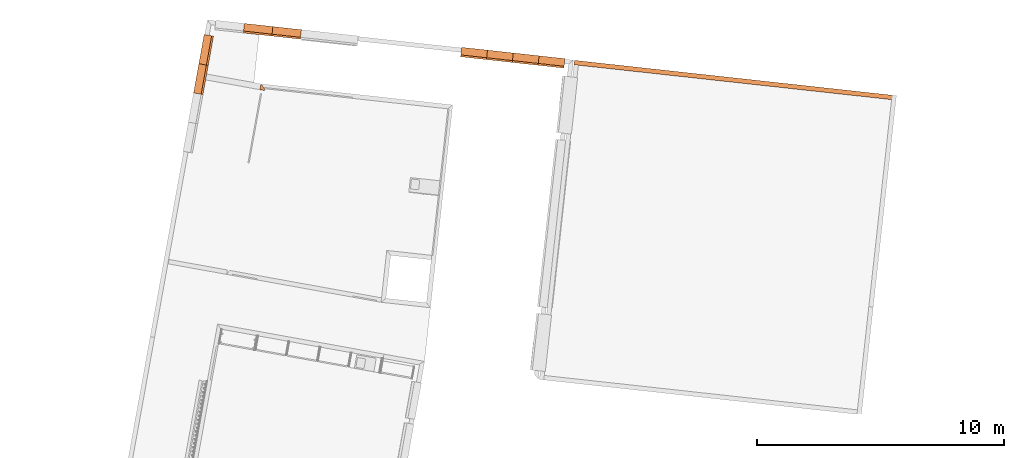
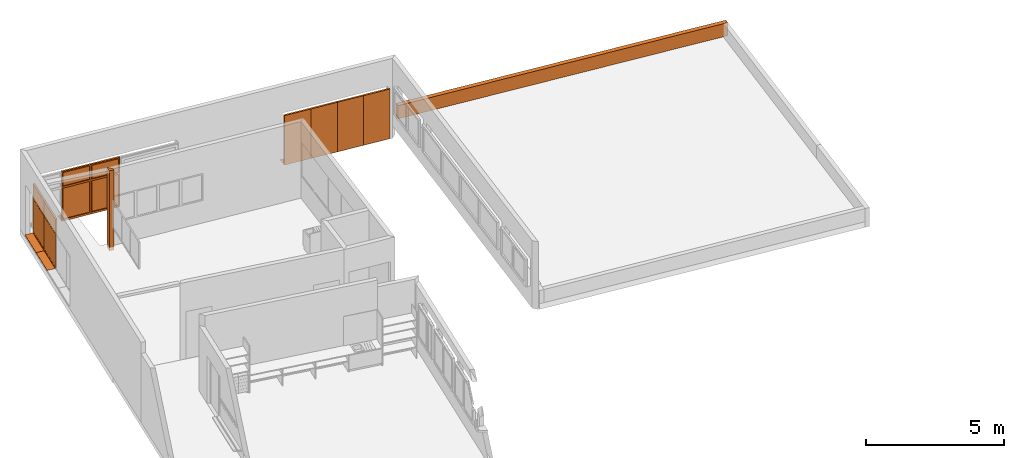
# One storey, part 26 of 52: 10 proxies.
"""IFC2X3 building model written with IfcOpenShell, lengths in metres."""

from ifc_helpers import new_model, entity, si_unit, converted_unit, derived_unit, money_unit, direction, frame, origin_with_axes, place, context, subcontext, project, spatial, polyline, outline, extrude, open_shell, faceted_brep, surface_model, source, transform, mapped, material, type_object, element, save


model = new_model("IFC2X3")

# Units and contexts
model_context = context("Model", 3, precision=1e-05, world=origin_with_axes(), true_north=direction((0.0, 1.0)))
body_context = subcontext(model_context, "Body", "Model", "MODEL_VIEW")
ifc_project = project(units=[si_unit("LENGTHUNIT", "METRE"), si_unit("AREAUNIT", "SQUARE_METRE"), si_unit("VOLUMEUNIT", "CUBIC_METRE"), converted_unit("PLANEANGLEUNIT", "DEGREE", entity("IfcPlaneAngleMeasure", 0.0174532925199), si_unit("PLANEANGLEUNIT", "RADIAN"), dimensions=[0, 0, 0, 0, 0, 0, 0]), money_unit("CHF"), converted_unit("TIMEUNIT", "Year", entity("IfcTimeMeasure", 31556926.0), si_unit("TIMEUNIT", "SECOND"), dimensions=[0, 0, 1, 0, 0, 0, 0]), si_unit("MASSUNIT", "GRAM", prefix="KILO"), si_unit("THERMODYNAMICTEMPERATUREUNIT", "DEGREE_CELSIUS"), si_unit("LUMINOUSINTENSITYUNIT", "LUMEN"), si_unit("ENERGYUNIT", "JOULE", prefix="MEGA"), derived_unit("THERMALCONDUCTANCEUNIT", [(si_unit("POWERUNIT", "WATT"), 1), (si_unit("LENGTHUNIT", "METRE"), -1), (si_unit("THERMODYNAMICTEMPERATUREUNIT", "KELVIN"), -1)]), derived_unit("SPECIFICHEATCAPACITYUNIT", [(si_unit("ENERGYUNIT", "JOULE"), 1), (si_unit("MASSUNIT", "GRAM", prefix="KILO"), -1), (si_unit("THERMODYNAMICTEMPERATUREUNIT", "KELVIN"), -1)]), derived_unit("MASSDENSITYUNIT", [(si_unit("MASSUNIT", "GRAM", prefix="KILO"), 1), (si_unit("VOLUMEUNIT", "CUBIC_METRE"), -1)])], contexts=[model_context])

# Site, building, storey
site_placement = place(None, frame((0.0, 0.0, 0.0), z_axis=(0.0, 0.0, 1.0), x_axis=(-0.177771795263, -0.984071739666, 0.0)))
site = spatial("IfcSite", under=ifc_project, at=site_placement, Name="Site", CompositionType="ELEMENT")
building_placement = place(site_placement, origin_with_axes())
building = spatial("IfcBuilding", under=site, at=building_placement, Name="Bâtiment", CompositionType="ELEMENT")
storey_placement = place(building_placement, frame((0.0, 0.0, 3.2), z_axis=(0.0, 0.0, 1.0), x_axis=(1.0, 0.0, 0.0)))
storey = spatial("IfcBuildingStorey", under=building, at=storey_placement, Name="R+1", CompositionType="ELEMENT", Elevation=3.2)

# Proxies
ifc_material_1 = material(Name="_BA banché RAL9007")
building_element_proxy_type_1 = type_object("IfcBuildingElementProxyType", Name="_BA banché RAL9007 180", PredefinedType="NOTDEFINED")
proxy_1_placement = place(storey_placement, frame((100.296126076, -156.627050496, -0.15), z_axis=(0.0, 0.0, 1.0), x_axis=(-1.0, 0.0, 0.0)))
element("IfcBuildingElementProxy", 1, at=proxy_1_placement, inside=storey, type_object=building_element_proxy_type_1, material=ifc_material_1, Name="M refend", context=body_context, shape_type="SweptSolid", body=[
    extrude(outline(polyline([(0.0, -0.18), (0.0720639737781, -0.18), (0.24, 0.0), (0.0, 0.0), (0.0, -0.18)])), origin_with_axes(), (0.0, 0.0, 1.0), 3.55),
])
ifc_material_2 = material(Name="Matériau de construction IFC")
building_element_proxy_type_2 = type_object("IfcBuildingElementProxyType", Name="Fenêtre variable 21", PredefinedType="NOTDEFINED")
shared_shape_1 = source(origin_with_axes(), body_context, "Body", "SurfaceModel", [
    surface_model("IfcShellBasedSurfaceModel", [(1.05, -0.284, 0.02), (1.05, -0.284, 0.01), (0.0, -0.284, 0.01), (0.0, -0.284, 0.02), (1.05, 0.025, -0.00087719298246), (0.0, 0.025, -0.00087719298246), (1.05, 0.025, -0.0308771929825), (0.0, 0.025, -0.0308771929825), (1.05, 0.0125, -0.0183771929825), (0.0, 0.0125, -0.0183771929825)], [open_shell([[[0, 1, 2, 3]], [[1, 4, 5, 2]], [[4, 6, 7, 5]], [[6, 8, 9, 7]]])]),
    faceted_brep([(1.0, -0.36, 1.46), (1.0, -0.36, 1.54), (1.0, -0.285, 1.54), (1.0, -0.285, 1.46), (1.0, -0.36, 0.08), (1.05, -0.36, 0.08), (1.05, -0.36, 2.149), (1.0, -0.36, 2.149), (1.0, -0.285, 2.149), (1.05, -0.285, 2.149), (1.05, -0.285, 0.08), (1.0, -0.285, 0.08)], [[[0, 1, 2, 3]], [[0, 4, 5, 6, 7, 1]], [[1, 7, 8, 2]], [[3, 2, 8, 9, 10, 11]], [[4, 0, 3, 11]], [[5, 4, 11, 10]], [[6, 5, 10, 9]], [[7, 6, 9, 8]]]),
    faceted_brep([(0.05, -0.36, 0.08), (0.0, -0.36, 0.08), (0.0, -0.285, 0.08), (0.05, -0.285, 0.08), (0.05, -0.36, 1.46), (0.05, -0.36, 1.54), (0.05, -0.36, 2.149), (0.0, -0.36, 2.149), (0.0, -0.285, 2.149), (0.05, -0.285, 2.149), (0.05, -0.285, 1.54), (0.05, -0.285, 1.46)], [[[0, 1, 2, 3]], [[0, 4, 5, 6, 7, 1]], [[1, 7, 8, 2]], [[3, 2, 8, 9, 10, 11]], [[4, 0, 3, 11]], [[5, 4, 11, 10]], [[6, 5, 10, 9]], [[7, 6, 9, 8]]]),
    faceted_brep([(1.0, -0.36, 1.46), (0.05, -0.36, 1.46), (0.05, -0.285, 1.46), (1.0, -0.285, 1.46), (1.0, -0.36, 1.54), (0.05, -0.36, 1.54), (0.05, -0.285, 1.54), (1.0, -0.285, 1.54)], [[[0, 1, 2, 3]], [[0, 4, 5, 1]], [[1, 5, 6, 2]], [[3, 2, 6, 7]], [[4, 0, 3, 7]], [[5, 4, 7, 6]]]),
    faceted_brep([(1.0, -0.36, 0.08), (1.05, -0.36, 0.08), (1.05, -0.285, 0.08), (1.0, -0.285, 0.08), (0.05, -0.36, 0.08), (0.0, -0.36, 0.08), (0.0, -0.36, 0.0), (1.05, -0.36, 0.0), (1.05, -0.285, 0.0), (0.0, -0.285, 0.0), (0.0, -0.285, 0.08), (0.05, -0.285, 0.08)], [[[0, 1, 2, 3]], [[0, 4, 5, 6, 7, 1]], [[1, 7, 8, 2]], [[3, 2, 8, 9, 10, 11]], [[4, 0, 3, 11]], [[5, 4, 11, 10]], [[6, 5, 10, 9]], [[7, 6, 9, 8]]]),
    faceted_brep([(0.05, -0.36, 2.149), (0.0, -0.36, 2.149), (0.0, -0.285, 2.149), (0.05, -0.285, 2.149), (1.0, -0.36, 2.149), (1.05, -0.36, 2.149), (1.05, -0.36, 2.199), (0.0, -0.36, 2.199), (0.0, -0.285, 2.199), (1.05, -0.285, 2.199), (1.05, -0.285, 2.149), (1.0, -0.285, 2.149)], [[[0, 1, 2, 3]], [[0, 4, 5, 6, 7, 1]], [[1, 7, 8, 2]], [[3, 2, 8, 9, 10, 11]], [[4, 0, 3, 11]], [[5, 4, 11, 10]], [[6, 5, 10, 9]], [[7, 6, 9, 8]]]),
    surface_model("IfcShellBasedSurfaceModel", [(1.0, -0.36, 1.54), (1.0, -0.36, 2.149), (0.05, -0.36, 2.149), (0.05, -0.36, 1.54)], [open_shell([[[0, 1, 2, 3]]])]),
    surface_model("IfcShellBasedSurfaceModel", [(1.0, -0.34, 1.54), (0.05, -0.34, 1.54), (0.05, -0.34, 2.149), (1.0, -0.34, 2.149)], [open_shell([[[0, 1, 2, 3]]])]),
    surface_model("IfcShellBasedSurfaceModel", [(1.0, -0.36, 0.08), (1.0, -0.36, 1.46), (0.05, -0.36, 1.46), (0.05, -0.36, 0.08)], [open_shell([[[0, 1, 2, 3]]])]),
    surface_model("IfcShellBasedSurfaceModel", [(1.0, -0.34, 0.08), (0.05, -0.34, 0.08), (0.05, -0.34, 1.46), (1.0, -0.34, 1.46)], [open_shell([[[0, 1, 2, 3]]])]),
])
for number, where, z_axis, x_axis, name in (
    (2, (97.1840929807, -148.900889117, 0.0025), (0.0, 0.0, 1.0), (-0.0692640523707, 0.997598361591, 0.0), "Baie vide-sur-hall-Nord"),
    (3, (96.9659112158, -145.758454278, 0.0025), (0.0, 0.0, 1.0), (-0.0692640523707, 0.997598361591, 0.0), "Baie vide-sur-hall-Nord"),
):
    element("IfcBuildingElementProxy", number, at=place(storey_placement, frame(where, z_axis=z_axis, x_axis=x_axis)), inside=storey, type_object=building_element_proxy_type_2, material=ifc_material_2, Name=name, context=body_context, shape_type="MappedRepresentation", body=[
        mapped(shared_shape_1, transform((0.0, 0.0, 0.0))),
    ])
shared_shape_2 = source(origin_with_axes(), body_context, "Body", "SurfaceModel", [
    surface_model("IfcShellBasedSurfaceModel", [(0.0, 0.284, 0.02), (0.0, 0.284, 0.01), (1.16, 0.284, 0.01), (1.16, 0.284, 0.02), (0.0, -0.025, -0.00087719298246), (1.16, -0.025, -0.00087719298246), (0.0, -0.025, -0.0308771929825), (1.16, -0.025, -0.0308771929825), (0.0, -0.0125, -0.0183771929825), (1.16, -0.0125, -0.0183771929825)], [open_shell([[[0, 1, 2, 3]], [[1, 4, 5, 2]], [[4, 6, 7, 5]], [[6, 8, 9, 7]]])]),
    faceted_brep([(0.05, 0.285, 1.46), (0.05, 0.36, 1.46), (0.05, 0.36, 1.54), (0.05, 0.285, 1.54), (0.05, 0.285, 0.08), (0.05, 0.36, 0.08), (0.0, 0.36, 0.08), (0.0, 0.36, 2.149), (0.05, 0.36, 2.149), (0.05, 0.285, 2.149), (0.0, 0.285, 2.149), (0.0, 0.285, 0.08)], [[[0, 1, 2, 3]], [[4, 5, 1, 0]], [[1, 5, 6, 7, 8, 2]], [[3, 2, 8, 9]], [[0, 3, 9, 10, 11, 4]], [[11, 6, 5, 4]], [[10, 7, 6, 11]], [[9, 8, 7, 10]]]),
    faceted_brep([(1.11, 0.285, 0.08), (1.11, 0.36, 0.08), (1.16, 0.36, 0.08), (1.16, 0.285, 0.08), (1.11, 0.285, 1.46), (1.11, 0.36, 1.46), (1.11, 0.36, 1.54), (1.11, 0.36, 2.149), (1.16, 0.36, 2.149), (1.16, 0.285, 2.149), (1.11, 0.285, 2.149), (1.11, 0.285, 1.54)], [[[0, 1, 2, 3]], [[4, 5, 1, 0]], [[1, 5, 6, 7, 8, 2]], [[3, 2, 8, 9]], [[0, 3, 9, 10, 11, 4]], [[11, 6, 5, 4]], [[10, 7, 6, 11]], [[9, 8, 7, 10]]]),
    faceted_brep([(0.05, 0.285, 1.46), (0.05, 0.36, 1.46), (1.11, 0.36, 1.46), (1.11, 0.285, 1.46), (0.05, 0.285, 1.54), (0.05, 0.36, 1.54), (1.11, 0.36, 1.54), (1.11, 0.285, 1.54)], [[[0, 1, 2, 3]], [[4, 5, 1, 0]], [[1, 5, 6, 2]], [[3, 2, 6, 7]], [[0, 3, 7, 4]], [[7, 6, 5, 4]]]),
    faceted_brep([(0.05, 0.285, 0.08), (0.05, 0.36, 0.08), (0.0, 0.36, 0.08), (0.0, 0.285, 0.08), (1.11, 0.285, 0.08), (1.11, 0.36, 0.08), (1.16, 0.36, 0.08), (1.16, 0.36, 0.0), (0.0, 0.36, 0.0), (0.0, 0.285, 0.0), (1.16, 0.285, 0.0), (1.16, 0.285, 0.08)], [[[0, 1, 2, 3]], [[4, 5, 1, 0]], [[1, 5, 6, 7, 8, 2]], [[3, 2, 8, 9]], [[0, 3, 9, 10, 11, 4]], [[11, 6, 5, 4]], [[10, 7, 6, 11]], [[9, 8, 7, 10]]]),
    faceted_brep([(1.11, 0.285, 2.149), (1.11, 0.36, 2.149), (1.16, 0.36, 2.149), (1.16, 0.285, 2.149), (0.05, 0.285, 2.149), (0.05, 0.36, 2.149), (0.0, 0.36, 2.149), (0.0, 0.36, 2.199), (1.16, 0.36, 2.199), (1.16, 0.285, 2.199), (0.0, 0.285, 2.199), (0.0, 0.285, 2.149)], [[[0, 1, 2, 3]], [[4, 5, 1, 0]], [[1, 5, 6, 7, 8, 2]], [[3, 2, 8, 9]], [[0, 3, 9, 10, 11, 4]], [[11, 6, 5, 4]], [[10, 7, 6, 11]], [[9, 8, 7, 10]]]),
    surface_model("IfcShellBasedSurfaceModel", [(0.05, 0.3175, 1.54), (1.11, 0.3175, 1.54), (1.11, 0.3175, 2.149), (0.05, 0.3175, 2.149)], [open_shell([[[0, 1, 2, 3]]])]),
    surface_model("IfcShellBasedSurfaceModel", [(0.05, 0.3275, 1.54), (0.05, 0.3275, 2.149), (1.11, 0.3275, 2.149), (1.11, 0.3275, 1.54)], [open_shell([[[0, 1, 2, 3]]])]),
    surface_model("IfcShellBasedSurfaceModel", [(0.05, 0.3175, 0.08), (1.11, 0.3175, 0.08), (1.11, 0.3175, 1.46), (0.05, 0.3175, 1.46)], [open_shell([[[0, 1, 2, 3]]])]),
    surface_model("IfcShellBasedSurfaceModel", [(0.05, 0.3275, 0.08), (0.05, 0.3275, 1.46), (1.11, 0.3275, 1.46), (1.11, 0.3275, 0.08)], [open_shell([[[0, 1, 2, 3]]])]),
])
for number, where, z_axis, x_axis, name in (
    (4, (97.6356944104, -155.405227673, 0.0), (0.0, 0.0, 1.0), (0.0692640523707, -0.997598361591, 0.0), "Baie angle-Nord"),
    (5, (97.7160407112, -156.562441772, 0.0), (0.0, 0.0, 1.0), (0.0692640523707, -0.997598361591, 0.0), "Baie angle-Nord"),
):
    element("IfcBuildingElementProxy", number, at=place(storey_placement, frame(where, z_axis=z_axis, x_axis=x_axis)), inside=storey, type_object=building_element_proxy_type_2, material=ifc_material_2, Name=name, context=body_context, shape_type="MappedRepresentation", body=[
        mapped(shared_shape_2, transform((0.0, 0.0, 0.0))),
    ])
shared_shape_3 = source(origin_with_axes(), body_context, "Body", "SurfaceModel", [
    surface_model("IfcShellBasedSurfaceModel", [(0.0, -0.284, 0.02), (1.05, -0.284, 0.02), (1.05, -0.284, 0.01), (0.0, -0.284, 0.01), (1.05, 0.025, -0.00087719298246), (0.0, 0.025, -0.00087719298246), (1.05, 0.025, -0.0308771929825), (0.0, 0.025, -0.0308771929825), (1.05, 0.0125, -0.0183771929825), (0.0, 0.0125, -0.0183771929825)], [open_shell([[[0, 1, 2, 3]], [[3, 2, 4, 5]], [[5, 4, 6, 7]], [[7, 6, 8, 9]]])]),
    faceted_brep([(0.05, -0.36, 1.46), (0.05, -0.285, 1.46), (0.05, -0.285, 1.54), (0.05, -0.36, 1.54), (0.05, -0.36, 0.08), (0.05, -0.285, 0.08), (0.0, -0.285, 0.08), (0.0, -0.285, 2.149), (0.05, -0.285, 2.149), (0.05, -0.36, 2.149), (0.0, -0.36, 2.149), (0.0, -0.36, 0.08)], [[[0, 1, 2, 3]], [[4, 5, 1, 0]], [[1, 5, 6, 7, 8, 2]], [[3, 2, 8, 9]], [[0, 3, 9, 10, 11, 4]], [[11, 6, 5, 4]], [[10, 7, 6, 11]], [[9, 8, 7, 10]]]),
    faceted_brep([(1.0, -0.36, 0.08), (1.0, -0.285, 0.08), (1.05, -0.285, 0.08), (1.05, -0.36, 0.08), (1.0, -0.36, 1.46), (1.0, -0.285, 1.46), (1.0, -0.285, 1.54), (1.0, -0.285, 2.149), (1.05, -0.285, 2.149), (1.05, -0.36, 2.149), (1.0, -0.36, 2.149), (1.0, -0.36, 1.54)], [[[0, 1, 2, 3]], [[4, 5, 1, 0]], [[1, 5, 6, 7, 8, 2]], [[3, 2, 8, 9]], [[0, 3, 9, 10, 11, 4]], [[11, 6, 5, 4]], [[10, 7, 6, 11]], [[9, 8, 7, 10]]]),
    faceted_brep([(0.05, -0.36, 1.46), (0.05, -0.285, 1.46), (1.0, -0.285, 1.46), (1.0, -0.36, 1.46), (0.05, -0.36, 1.54), (0.05, -0.285, 1.54), (1.0, -0.285, 1.54), (1.0, -0.36, 1.54)], [[[0, 1, 2, 3]], [[4, 5, 1, 0]], [[1, 5, 6, 2]], [[3, 2, 6, 7]], [[0, 3, 7, 4]], [[7, 6, 5, 4]]]),
    faceted_brep([(0.05, -0.36, 0.08), (0.05, -0.285, 0.08), (0.0, -0.285, 0.08), (0.0, -0.36, 0.08), (1.0, -0.36, 0.08), (1.0, -0.285, 0.08), (1.05, -0.285, 0.08), (1.05, -0.285, 0.0), (0.0, -0.285, 0.0), (0.0, -0.36, 0.0), (1.05, -0.36, 0.0), (1.05, -0.36, 0.08)], [[[0, 1, 2, 3]], [[4, 5, 1, 0]], [[1, 5, 6, 7, 8, 2]], [[3, 2, 8, 9]], [[0, 3, 9, 10, 11, 4]], [[11, 6, 5, 4]], [[10, 7, 6, 11]], [[9, 8, 7, 10]]]),
    faceted_brep([(1.0, -0.36, 2.149), (1.0, -0.285, 2.149), (1.05, -0.285, 2.149), (1.05, -0.36, 2.149), (0.05, -0.36, 2.149), (0.05, -0.285, 2.149), (0.0, -0.285, 2.149), (0.0, -0.285, 2.199), (1.05, -0.285, 2.199), (1.05, -0.36, 2.199), (0.0, -0.36, 2.199), (0.0, -0.36, 2.149)], [[[0, 1, 2, 3]], [[4, 5, 1, 0]], [[1, 5, 6, 7, 8, 2]], [[3, 2, 8, 9]], [[0, 3, 9, 10, 11, 4]], [[11, 6, 5, 4]], [[10, 7, 6, 11]], [[9, 8, 7, 10]]]),
    surface_model("IfcShellBasedSurfaceModel", [(0.05, -0.36, 1.54), (1.0, -0.36, 1.54), (1.0, -0.36, 2.149), (0.05, -0.36, 2.149)], [open_shell([[[0, 1, 2, 3]]])]),
    surface_model("IfcShellBasedSurfaceModel", [(0.05, -0.34, 1.54), (0.05, -0.34, 2.149), (1.0, -0.34, 2.149), (1.0, -0.34, 1.54)], [open_shell([[[0, 1, 2, 3]]])]),
    surface_model("IfcShellBasedSurfaceModel", [(0.05, -0.36, 0.08), (1.0, -0.36, 0.08), (1.0, -0.36, 1.46), (0.05, -0.36, 1.46)], [open_shell([[[0, 1, 2, 3]]])]),
    surface_model("IfcShellBasedSurfaceModel", [(0.05, -0.34, 0.08), (0.05, -0.34, 1.46), (1.0, -0.34, 1.46), (1.0, -0.34, 0.08)], [open_shell([[[0, 1, 2, 3]]])]),
])
for number, where, z_axis, x_axis, name in (
    (6, (97.1113657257, -147.853410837, 0.0025), (0.0, 0.0, 1.0), (-0.0692640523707, 0.997598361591, 0.0), "Baie vide-sur-hall-Nord"),
    (7, (97.0386384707, -146.805932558, 0.0025), (0.0, 0.0, 1.0), (-0.0692640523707, 0.997598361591, 0.0), "Baie vide-sur-hall-Nord"),
):
    element("IfcBuildingElementProxy", number, at=place(storey_placement, frame(where, z_axis=z_axis, x_axis=x_axis)), inside=storey, type_object=building_element_proxy_type_2, material=ifc_material_2, Name=name, context=body_context, shape_type="MappedRepresentation", body=[
        mapped(shared_shape_3, transform((0.0, 0.0, 0.0))),
    ])
building_element_proxy_type_3 = type_object("IfcBuildingElementProxyType", Name="_acrotere 230 x 600", PredefinedType="NOTDEFINED")
proxy_2_placement = place(storey_placement, frame((95.9588817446, -131.254380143, 0.65), z_axis=(0.0, 0.0, 1.0), x_axis=(0.0692640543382, -0.997598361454, 0.0)))
element("IfcBuildingElementProxy", 8, at=proxy_2_placement, inside=storey, type_object=building_element_proxy_type_3, material=ifc_material_1, Name="M acrot-pluri", context=body_context, shape_type="SweptSolid", body=[
    extrude(outline(polyline([(-0.180114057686, 0.542613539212), (-0.180114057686, 0.0), (0.0, 0.0), (0.0, 0.542613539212), (0.0, 0.562613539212), (0.0, 0.582613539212), (-0.180114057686, 0.582613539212), (-0.180114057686, 0.562613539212), (-0.180114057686, 0.542613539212)])), frame((0.0, 0.0, 0.0), z_axis=(-1.0, 0.0, 0.0), x_axis=(0.0, -1.0, 0.0)), (0.0, 0.0, -1.0), 13.099515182),
])
shared_shape_4 = source(origin_with_axes(), body_context, "Body", "SurfaceModel", [
    surface_model("IfcShellBasedSurfaceModel", [(0.0, 0.284, 0.02), (0.0, 0.284, 0.01), (1.2, 0.284, 0.01), (1.2, 0.284, 0.02), (0.0, -0.025, -0.00087719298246), (1.2, -0.025, -0.00087719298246), (0.0, -0.025, -0.0308771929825), (1.2, -0.025, -0.0308771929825), (0.0, -0.0125, -0.0183771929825), (1.2, -0.0125, -0.0183771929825)], [open_shell([[[0, 1, 2, 3]], [[1, 4, 5, 2]], [[4, 6, 7, 5]], [[6, 8, 9, 7]]])]),
    faceted_brep([(0.05, 0.285, 1.46), (0.05, 0.36, 1.46), (0.05, 0.36, 1.54), (0.05, 0.285, 1.54), (0.05, 0.285, 0.08), (0.05, 0.36, 0.08), (0.0, 0.36, 0.08), (0.0, 0.36, 2.149), (0.05, 0.36, 2.149), (0.05, 0.285, 2.149), (0.0, 0.285, 2.149), (0.0, 0.285, 0.08)], [[[0, 1, 2, 3]], [[4, 5, 1, 0]], [[1, 5, 6, 7, 8, 2]], [[3, 2, 8, 9]], [[0, 3, 9, 10, 11, 4]], [[11, 6, 5, 4]], [[10, 7, 6, 11]], [[9, 8, 7, 10]]]),
    faceted_brep([(1.15, 0.285, 0.08), (1.15, 0.36, 0.08), (1.2, 0.36, 0.08), (1.2, 0.285, 0.08), (1.15, 0.285, 1.46), (1.15, 0.36, 1.46), (1.15, 0.36, 1.54), (1.15, 0.36, 2.149), (1.2, 0.36, 2.149), (1.2, 0.285, 2.149), (1.15, 0.285, 2.149), (1.15, 0.285, 1.54)], [[[0, 1, 2, 3]], [[4, 5, 1, 0]], [[1, 5, 6, 7, 8, 2]], [[3, 2, 8, 9]], [[0, 3, 9, 10, 11, 4]], [[11, 6, 5, 4]], [[10, 7, 6, 11]], [[9, 8, 7, 10]]]),
    faceted_brep([(0.05, 0.285, 1.46), (0.05, 0.36, 1.46), (1.15, 0.36, 1.46), (1.15, 0.285, 1.46), (0.05, 0.285, 1.54), (0.05, 0.36, 1.54), (1.15, 0.36, 1.54), (1.15, 0.285, 1.54)], [[[0, 1, 2, 3]], [[4, 5, 1, 0]], [[1, 5, 6, 2]], [[3, 2, 6, 7]], [[0, 3, 7, 4]], [[7, 6, 5, 4]]]),
    faceted_brep([(0.05, 0.285, 0.08), (0.05, 0.36, 0.08), (0.0, 0.36, 0.08), (0.0, 0.285, 0.08), (1.15, 0.285, 0.08), (1.15, 0.36, 0.08), (1.2, 0.36, 0.08), (1.2, 0.36, 0.0), (0.0, 0.36, 0.0), (0.0, 0.285, 0.0), (1.2, 0.285, 0.0), (1.2, 0.285, 0.08)], [[[0, 1, 2, 3]], [[4, 5, 1, 0]], [[1, 5, 6, 7, 8, 2]], [[3, 2, 8, 9]], [[0, 3, 9, 10, 11, 4]], [[11, 6, 5, 4]], [[10, 7, 6, 11]], [[9, 8, 7, 10]]]),
    faceted_brep([(1.15, 0.285, 2.149), (1.15, 0.36, 2.149), (1.2, 0.36, 2.149), (1.2, 0.285, 2.149), (0.05, 0.285, 2.149), (0.05, 0.36, 2.149), (0.0, 0.36, 2.149), (0.0, 0.36, 2.199), (1.2, 0.36, 2.199), (1.2, 0.285, 2.199), (0.0, 0.285, 2.199), (0.0, 0.285, 2.149)], [[[0, 1, 2, 3]], [[4, 5, 1, 0]], [[1, 5, 6, 7, 8, 2]], [[3, 2, 8, 9]], [[0, 3, 9, 10, 11, 4]], [[11, 6, 5, 4]], [[10, 7, 6, 11]], [[9, 8, 7, 10]]]),
    surface_model("IfcShellBasedSurfaceModel", [(0.05, 0.29, 1.54), (1.15, 0.29, 1.54), (1.15, 0.29, 2.149), (0.05, 0.29, 2.149)], [open_shell([[[0, 1, 2, 3]]])]),
    surface_model("IfcShellBasedSurfaceModel", [(0.05, 0.3, 1.54), (0.05, 0.3, 2.149), (1.15, 0.3, 2.149), (1.15, 0.3, 1.54)], [open_shell([[[0, 1, 2, 3]]])]),
    surface_model("IfcShellBasedSurfaceModel", [(0.05, 0.29, 0.08), (1.15, 0.29, 0.08), (1.15, 0.29, 1.46), (0.05, 0.29, 1.46)], [open_shell([[[0, 1, 2, 3]]])]),
    surface_model("IfcShellBasedSurfaceModel", [(0.05, 0.3, 0.08), (0.05, 0.3, 1.46), (1.15, 0.3, 1.46), (1.15, 0.3, 0.08)], [open_shell([[[0, 1, 2, 3]]])]),
])
proxy_3_placement = place(storey_placement, frame((98.5003562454, -159.217107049, 9.99999999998e-05), z_axis=(0.0, 0.0, 1.0), x_axis=(1.0, 0.0, 0.0)))
element("IfcBuildingElementProxy", 9, at=proxy_3_placement, inside=storey, type_object=building_element_proxy_type_2, material=ifc_material_2, Name="Baie angle-Ouest", context=body_context, shape_type="MappedRepresentation", body=[
    mapped(shared_shape_4, transform((0.0, 0.0, 0.0))),
])
shared_shape_5 = source(origin_with_axes(), body_context, "Body", "SurfaceModel", [
    surface_model("IfcShellBasedSurfaceModel", [(0.0, 0.284, 0.02), (0.0, 0.284, 0.01), (1.2, 0.284, 0.01), (1.2, 0.284, 0.02), (0.0, -0.025, -0.00087719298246), (1.2, -0.025, -0.00087719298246), (0.0, -0.025, -0.0308771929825), (1.2, -0.025, -0.0308771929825), (0.0, -0.0125, -0.0183771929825), (1.2, -0.0125, -0.0183771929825)], [open_shell([[[0, 1, 2, 3]], [[1, 4, 5, 2]], [[4, 6, 7, 5]], [[6, 8, 9, 7]]])]),
    faceted_brep([(0.05, 0.285, 1.46), (0.05, 0.36, 1.46), (0.05, 0.36, 1.54), (0.05, 0.285, 1.54), (0.05, 0.285, 0.08), (0.05, 0.36, 0.08), (0.0, 0.36, 0.08), (0.0, 0.36, 2.149), (0.05, 0.36, 2.149), (0.05, 0.285, 2.149), (0.0, 0.285, 2.149), (0.0, 0.285, 0.08)], [[[0, 1, 2, 3]], [[4, 5, 1, 0]], [[1, 5, 6, 7, 8, 2]], [[3, 2, 8, 9]], [[0, 3, 9, 10, 11, 4]], [[11, 6, 5, 4]], [[10, 7, 6, 11]], [[9, 8, 7, 10]]]),
    faceted_brep([(1.15, 0.285, 0.08), (1.15, 0.36, 0.08), (1.2, 0.36, 0.08), (1.2, 0.285, 0.08), (1.15, 0.285, 1.46), (1.15, 0.36, 1.46), (1.15, 0.36, 1.54), (1.15, 0.36, 2.149), (1.2, 0.36, 2.149), (1.2, 0.285, 2.149), (1.15, 0.285, 2.149), (1.15, 0.285, 1.54)], [[[0, 1, 2, 3]], [[4, 5, 1, 0]], [[1, 5, 6, 7, 8, 2]], [[3, 2, 8, 9]], [[0, 3, 9, 10, 11, 4]], [[11, 6, 5, 4]], [[10, 7, 6, 11]], [[9, 8, 7, 10]]]),
    faceted_brep([(0.05, 0.285, 1.46), (0.05, 0.36, 1.46), (1.15, 0.36, 1.46), (1.15, 0.285, 1.46), (0.05, 0.285, 1.54), (0.05, 0.36, 1.54), (1.15, 0.36, 1.54), (1.15, 0.285, 1.54)], [[[0, 1, 2, 3]], [[4, 5, 1, 0]], [[1, 5, 6, 2]], [[3, 2, 6, 7]], [[0, 3, 7, 4]], [[7, 6, 5, 4]]]),
    faceted_brep([(0.05, 0.285, 0.08), (0.05, 0.36, 0.08), (0.0, 0.36, 0.08), (0.0, 0.285, 0.08), (1.15, 0.285, 0.08), (1.15, 0.36, 0.08), (1.2, 0.36, 0.08), (1.2, 0.36, 0.0), (0.0, 0.36, 0.0), (0.0, 0.285, 0.0), (1.2, 0.285, 0.0), (1.2, 0.285, 0.08)], [[[0, 1, 2, 3]], [[4, 5, 1, 0]], [[1, 5, 6, 7, 8, 2]], [[3, 2, 8, 9]], [[0, 3, 9, 10, 11, 4]], [[11, 6, 5, 4]], [[10, 7, 6, 11]], [[9, 8, 7, 10]]]),
    faceted_brep([(1.15, 0.285, 2.149), (1.15, 0.36, 2.149), (1.2, 0.36, 2.149), (1.2, 0.285, 2.149), (0.05, 0.285, 2.149), (0.05, 0.36, 2.149), (0.0, 0.36, 2.149), (0.0, 0.36, 2.199), (1.2, 0.36, 2.199), (1.2, 0.285, 2.199), (0.0, 0.285, 2.199), (0.0, 0.285, 2.149)], [[[0, 1, 2, 3]], [[4, 5, 1, 0]], [[1, 5, 6, 7, 8, 2]], [[3, 2, 8, 9]], [[0, 3, 9, 10, 11, 4]], [[11, 6, 5, 4]], [[10, 7, 6, 11]], [[9, 8, 7, 10]]]),
    surface_model("IfcShellBasedSurfaceModel", [(0.05, 0.29, 1.54), (1.15, 0.29, 1.54), (1.15, 0.29, 2.149), (0.05, 0.29, 2.149)], [open_shell([[[0, 1, 2, 3]]])]),
    surface_model("IfcShellBasedSurfaceModel", [(0.05, 0.3, 1.54), (0.05, 0.3, 2.149), (1.15, 0.3, 2.149), (1.15, 0.3, 1.54)], [open_shell([[[0, 1, 2, 3]]])]),
    surface_model("IfcShellBasedSurfaceModel", [(0.05, 0.29, 0.08), (1.15, 0.29, 0.08), (1.15, 0.29, 1.46), (0.05, 0.29, 1.46)], [open_shell([[[0, 1, 2, 3]]])]),
    surface_model("IfcShellBasedSurfaceModel", [(0.05, 0.3, 0.08), (0.05, 0.3, 1.46), (1.15, 0.3, 1.46), (1.15, 0.3, 0.08)], [open_shell([[[0, 1, 2, 3]]])]),
])
proxy_4_placement = place(storey_placement, frame((99.7003562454, -159.217107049, 9.99999999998e-05), z_axis=(0.0, 0.0, 1.0), x_axis=(1.0, 0.0, 0.0)))
element("IfcBuildingElementProxy", 10, at=proxy_4_placement, inside=storey, type_object=building_element_proxy_type_2, material=ifc_material_2, Name="Baie angle-Ouest", context=body_context, shape_type="MappedRepresentation", body=[
    mapped(shared_shape_5, transform((0.0, 0.0, 0.0))),
])

save(model, "model.ifc")
